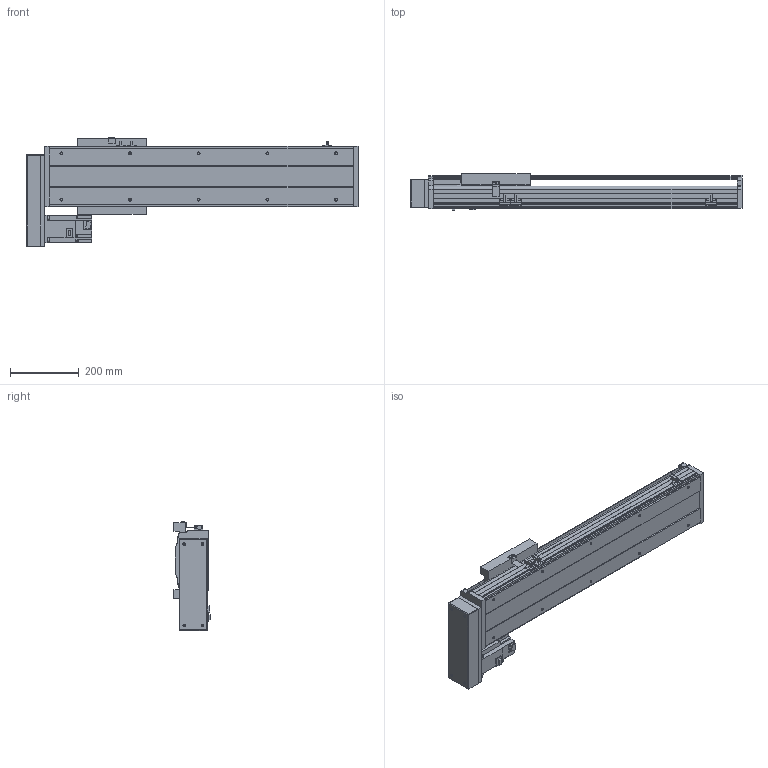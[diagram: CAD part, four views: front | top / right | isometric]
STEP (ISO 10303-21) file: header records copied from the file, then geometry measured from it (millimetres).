
FILE_DESCRIPTION( ( 'STEP AP214' ), '1' );
FILE_NAME( 'x:/temp/worker_6/temp/exporttempdir_5396_269_8iiSf/format_0/PSS200-L10-S550-BR-T75-C1-N(0).stp', '2022-06-09T01:16:25', ( 'License CC BY-ND 4.0' ), ( 'CADENAS' ), ' ', 'PARTsolutions', ' ' );
FILE_SCHEMA( ( 'AUTOMOTIVE_DESIGN { 1 0 10303 214 1 1 1 1 }' ) );
Length unit declared in the file: millimetre
Products named in the file (8): PSS200-L10-S550-BR-T75-C1-N(0); _PSS200-S550-BR-C1-N_body; _PSS200-N_Q; _PSS200-BR-C1-N_sl; _PSS200-N_sensor; _PSS200BR-N_h; _T75-p1; _PSS200-S550-BR-N_S
Assembly tree (9 placements, depth 2):
  PSS200-L10-S550-BR-T75-C1-N(0)
    _PSS200-S550-BR-C1-N_body
    _PSS200-N_Q
    _PSS200-BR-C1-N_sl
    _PSS200-N_sensor  x3
    _PSS200BR-N_h
    _T75-p1
    _PSS200-S550-BR-N_S
Bounding box: 966.85 x 105.3 x 317.86 mm (x, y, z)
Volume: 7415695.6 mm3; surface area: 1606314.1 mm2
Topology: 9 solids, 9 shells, 600 faces, 1597 edges, 1054 vertices
Faces by surface type: plane 466, cylinder 112, cone 18, sphere 4
Full cylindrical faces by diameter (mm): 4 x2, 4.5 x4, 6 x7, 6.647 x14, 7.4 x4, 8 x8, 10 x6, 25 x1, 40 x1, 67 x1
Entity records: 20930 total; most frequent: CARTESIAN_POINT 2859, DIRECTION 2752, ORIENTED_EDGE 2726, EDGE_CURVE 1363, LINE 1090, VECTOR 1090, VERTEX_POINT 938, AXIS2_PLACEMENT_3D 831
